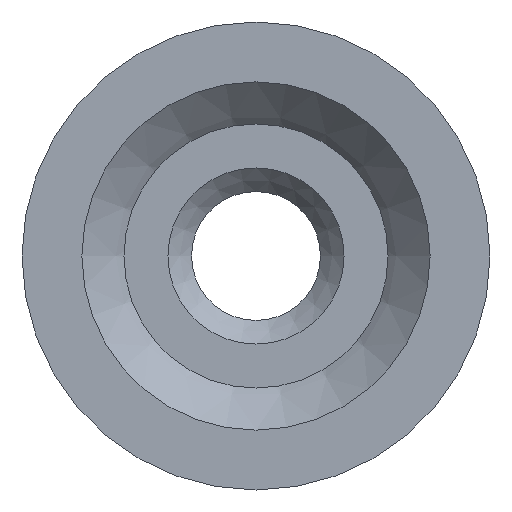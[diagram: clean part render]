
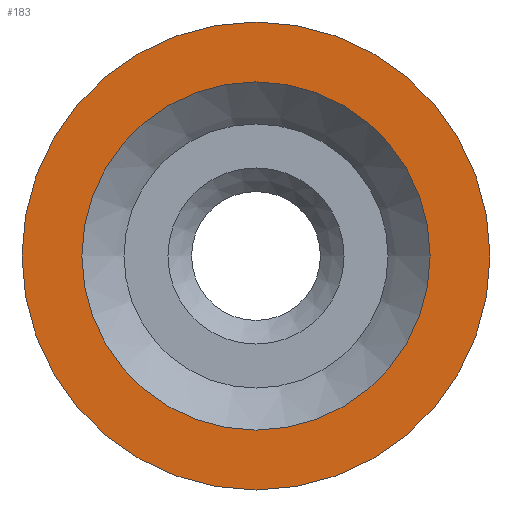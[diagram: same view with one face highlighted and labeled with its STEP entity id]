
A CAD part, left-side view. The second image highlights one B-rep face of the part: STEP entity #183.
In plain terms, the highlighted planar face has unit normal (-1, 0, 0).
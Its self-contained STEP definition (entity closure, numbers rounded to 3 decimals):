
#16=PLANE($,#213);
#37=FACE_BOUND($,#79,.T.);
#53=FACE_OUTER_BOUND($,#78,.T.);
#78=EDGE_LOOP($,(#158));
#79=EDGE_LOOP($,(#159));
#100=CIRCLE($,#212,1.473);
#101=CIRCLE($,#214,1.98);
#116=VERTEX_POINT($,#321);
#117=VERTEX_POINT($,#324);
#132=EDGE_CURVE($,#116,#116,#100,.T.);
#133=EDGE_CURVE($,#117,#117,#101,.T.);
#158=ORIENTED_EDGE($,*,*,#133,.F.);
#159=ORIENTED_EDGE($,*,*,#132,.T.);
#183=ADVANCED_FACE($,(#53,#37),#16,.T.);
#212=AXIS2_PLACEMENT_3D($,#322,#266,#267);
#213=AXIS2_PLACEMENT_3D($,#323,#268,#269);
#214=AXIS2_PLACEMENT_3D($,#325,#270,#271);
#266=DIRECTION('center_axis',(1.,0.,0.));
#267=DIRECTION('ref_axis',(0.,1.,0.));
#268=DIRECTION('center_axis',(-1.,0.,0.));
#269=DIRECTION('ref_axis',(0.,0.,1.));
#270=DIRECTION('center_axis',(1.,0.,0.));
#271=DIRECTION('ref_axis',(0.,1.,0.));
#321=CARTESIAN_POINT('',(8.71,1.473,0.));
#322=CARTESIAN_POINT('Origin',(8.71,0.,0.));
#323=CARTESIAN_POINT('Origin',(8.71,1.727,0.));
#324=CARTESIAN_POINT('',(8.71,1.98,0.));
#325=CARTESIAN_POINT('Origin',(8.71,0.,0.));
